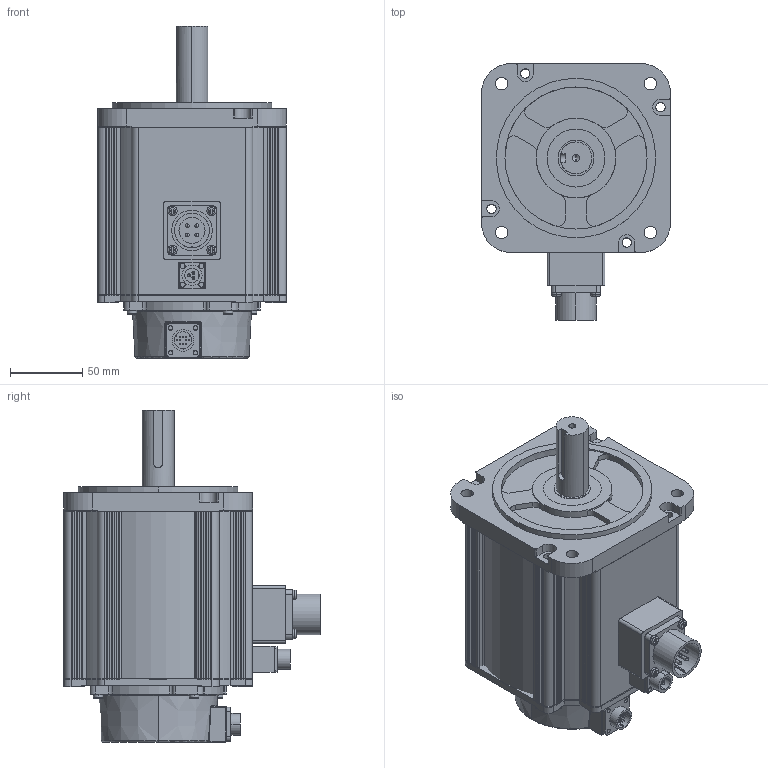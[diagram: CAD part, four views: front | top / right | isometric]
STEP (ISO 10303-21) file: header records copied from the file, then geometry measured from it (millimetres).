
FILE_DESCRIPTION (( 'STEP AP203' ), '1' );
FILE_NAME ('130E-08415 - Z.STEP', '2024-09-05T11:14:24', ( '' ), ( '' ), 'SwSTEP 2.0', 'SolidWorks 2018', '' );
FILE_SCHEMA (( 'CONFIG_CONTROL_DESIGN' ));
Length unit declared in the file: millimetre
Products named in the file (12): 130E-08415 - Z; 130A諉盄釱-1; 蚐猾; 堤粣; XS12J3Z; 18-10; 儂褲-8.4N.M -Z; 100惕掅菁釱; 130A綴裔潠謹; 橈勤硉晤鎢ん誘欶  S13E.10-01; 130Aǰ; SC-CMV1-R10P-E
Assembly tree (11 placements, depth 2):
  130E-08415 - Z
    130A綴裔潠謹
    130A諉盄釱-1
    130Aǰ
    堤粣
    蚐猾
    XS12J3Z
    100惕掅菁釱
    儂褲-8.4N.M -Z
    18-10
    SC-CMV1-R10P-E
    橈勤硉晤鎢ん誘欶  S13E.10-01
Bounding box: 130.2 x 176.9 x 229 mm (x, y, z)
Volume: 716645.1 mm3; surface area: 308980.7 mm2
Topology: 11 solids, 15 shells, 975 faces, 2606 edges, 1701 vertices
Faces by surface type: plane 537, cylinder 357, torus 45, sphere 18, cone 10, bspline 8
Entity records: 32640 total; most frequent: CARTESIAN_POINT 6397, DIRECTION 5326, ORIENTED_EDGE 5132, EDGE_CURVE 2566, AXIS2_PLACEMENT_3D 1822, VERTEX_POINT 1683, LINE 1682, VECTOR 1682
